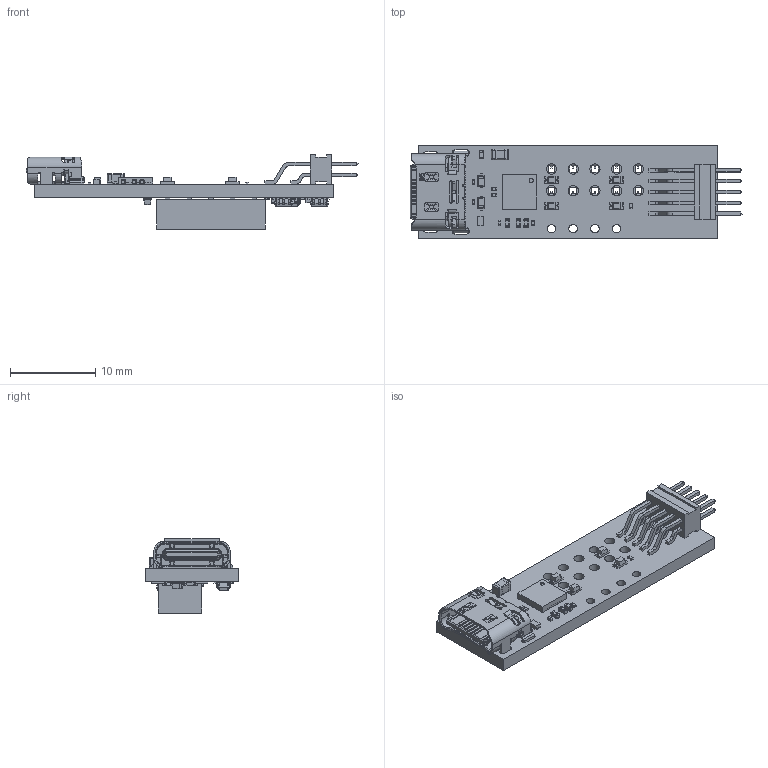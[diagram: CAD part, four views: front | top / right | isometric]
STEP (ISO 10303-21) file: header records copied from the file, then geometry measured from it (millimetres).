
FILE_DESCRIPTION(('Open CASCADE Model'),'2;1');
FILE_NAME('Open CASCADE Shape Model','2026-04-16T11:11:48',('Author'),( 'Open CASCADE'),'Open CASCADE STEP processor 7.5','Open CASCADE 7.5' ,'Unknown');
FILE_SCHEMA(('AUTOMOTIVE_DESIGN { 1 0 10303 214 1 1 1 1 }'));
Length unit declared in the file: millimetre
Products named in the file (94): PCB; Board; Open CASCADE STEP translator 7.5 2.1.1; D1; 8676506752; Body; bigPin; Q5; 6861763808; Open CASCADE STEP translator 7.5 12.1; Open CASCADE STEP translator 7.5 12.2.1; lead; Z4; 6861762032; Open CASCADE STEP translator 7.5 11.1.1; 10072968128; Extruded; R17; RES-0201; J3; FTSH-105-01-L-DH-TR; FTSH-105-01-L-DH-TR_body; FTSH-105-01-L-DH-TR_pins1; FTSH-105-01-L-DH-TR_pins2; U2; 9948772144; Open CASCADE STEP translator 7.5 19.1; Open CASCADE STEP translator 7.5 19.2.1; Pin Shape; Open CASCADE STEP translator 7.5 19.3.1; R16; R15; R14; R13; R12; R11; R10; Q4; sot363; Q3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
Assembly tree (151 placements, depth 5):
  PCB
    Board
      Open CASCADE STEP translator 7.5 2.1.1
    D1
      8676506752
        Body
        bigPin  x2
    Q5
      6861763808
        Open CASCADE STEP translator 7.5 12.1
        Body
          Open CASCADE STEP translator 7.5 12.2.1
        lead  x3
    Z4
      6861762032
        Body
          Open CASCADE STEP translator 7.5 11.1.1
        lead  x2
      10072968128
        Extruded
    R17
      RES-0201
    J3
      FTSH-105-01-L-DH-TR
        FTSH-105-01-L-DH-TR_body
        FTSH-105-01-L-DH-TR_pins1
        FTSH-105-01-L-DH-TR_pins2
    U2
      9948772144
        Open CASCADE STEP translator 7.5 19.1
        Body
          Open CASCADE STEP translator 7.5 19.2.1
        Pin Shape  x10
          Open CASCADE STEP translator 7.5 19.3.1
    R16
      RES-0201
    R15
      RES-0201
    R14
      RES-0201
    R13
      RES-0201
    R12
      RES-0201
    R11
      RES-0201
    R10
      RES-0201
    Q4
      sot363
    Q3
      sot363
    Q2
      sot363
    C8
      CAP-0201
    C7
      CAP-0201
    C6
      CAP-0402
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Bounding box: 38.86 x 11 x 8.7 mm (x, y, z)
Volume: 1022.1 mm3; surface area: 2592.7 mm2
Topology: 89 solids, 92 shells, 4284 faces, 11250 edges, 7016 vertices
Faces by surface type: plane 3022, cylinder 960, sphere 112, bspline 112, cone 54, torus 16, revolution 8
Full cylindrical faces by diameter (mm): 0.07 x4, 0.163 x1, 0.181 x1, 0.45 x2, 0.5 x1, 1 x4, 1.2 x10
Entity records: 92570 total; most frequent: CARTESIAN_POINT 16832, ORIENTED_EDGE 13511, DIRECTION 13018, EDGE_CURVE 6757, LINE 5240, VECTOR 5240, VERTEX_POINT 4284, AXIS2_PLACEMENT_3D 3885
